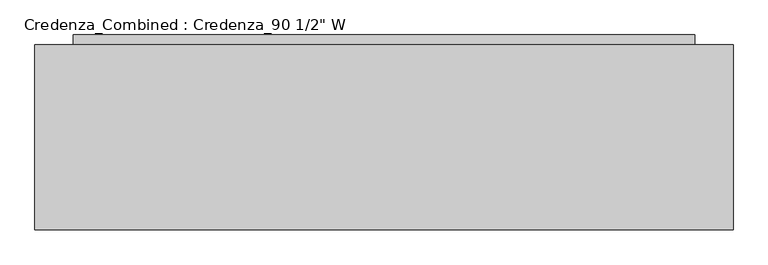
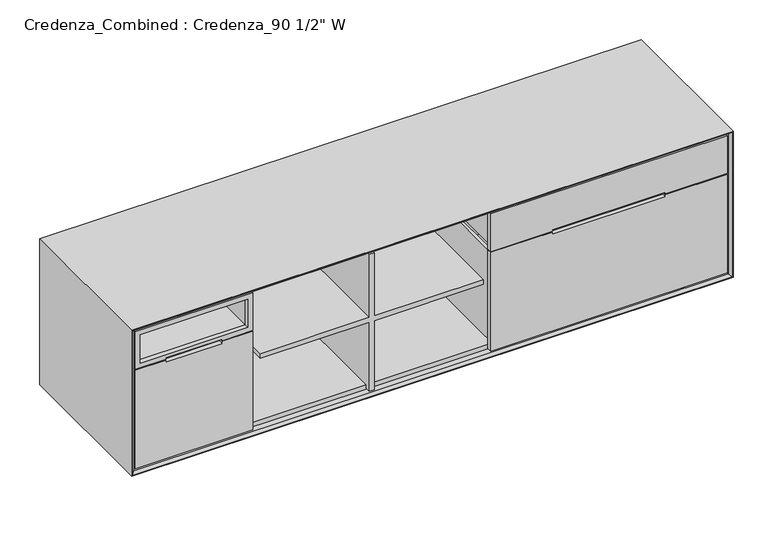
"""IFC4 building model written with IfcOpenShell, lengths in millimetres: furniture geometry."""

from ifc_helpers import new_model, si_unit, frame, origin, origin_with_axes, place, context, project, spatial, polyline, outline, extrude, faceted_brep, source, transform, mapped, element, save


def furniture_50cba423(model_context):
    return source(origin(), model_context, "Body", "SolidModel", [
        faceted_brep([(2263.775, 609.6, 478.63125), (1395.4125, 609.6, 478.63125), (1395.4125, 28.575, 478.63125), (2263.775, 28.575, 478.63125), (1408.1125, 596.9, 478.63125), (2249.4875, 596.9, 478.63125), (2249.4875, 41.275, 478.63125), (1408.1125, 41.275, 478.63125), (2263.775, 609.6, 105.56875), (1395.4125, 609.6, 105.56875), (1395.4125, 28.575, 105.56875), (2263.775, 28.575, 105.56875), (1408.1125, 596.9, 118.26875), (2249.4875, 596.9, 118.26875), (2249.4875, 41.275, 118.26875), (1408.1125, 41.275, 118.26875)], [[[0, 1, 2, 3], [4, 5, 6, 7]], [[1, 0, 8, 9]], [[2, 1, 9, 10]], [[3, 2, 10, 11]], [[8, 0, 3, 11]], [[5, 4, 12, 13]], [[6, 5, 13, 14]], [[7, 6, 14, 15]], [[4, 7, 15, 12]], [[13, 12, 15, 14]], [[8, 11, 10, 9]]]),
        faceted_brep([(2249.4875, 596.9, 519.90625), (1408.1125, 596.9, 519.90625), (1408.1125, 41.275, 519.90625), (2249.4875, 41.275, 519.90625), (2263.775, 609.6, 507.20625), (2263.775, 28.575, 507.20625), (1395.4125, 28.575, 507.20625), (1395.4125, 609.6, 507.20625), (1395.4125, 609.6, 634.20625), (2263.775, 609.6, 634.20625), (1395.4125, 28.575, 634.20625), (2263.775, 28.575, 634.20625), (1408.1125, 596.9, 634.20625), (2249.4875, 596.9, 634.20625), (2249.4875, 41.275, 634.20625), (1408.1125, 41.275, 634.20625)], [[[0, 1, 2, 3]], [[4, 5, 6, 7]], [[4, 7, 8, 9]], [[8, 7, 6, 10]], [[10, 6, 5, 11]], [[11, 5, 4, 9]], [[9, 8, 10, 11], [12, 13, 14, 15]], [[13, 12, 1, 0]], [[14, 13, 0, 3]], [[15, 14, 3, 2]], [[12, 15, 2, 1]]]),
        extrude(outline(polyline([(504.03125, 1377.95), (105.56875, 1377.95), (105.56875, 2281.2375), (504.03125, 2281.2375), (504.03125, 2045.49375), (494.7030946, 2045.49375), (494.7030946, 1613.69375), (504.03125, 1613.69375), (504.03125, 1377.95)])), frame((0.0, 9.525, 0.0), z_axis=(0.0, 1.0, 0.0), x_axis=(0.0, 0.0, 1.0)), (0.0, 0.0, 1.0), 19.05),
        extrude(outline(polyline([(659.60625, 2281.2375), (659.60625, 1377.95), (507.20625, 1377.95), (507.20625, 1613.69375), (513.3594054, 1613.69375), (513.3594054, 2045.49375), (507.20625, 2045.49375), (507.20625, 2281.2375), (659.60625, 2281.2375)])), frame((0.0, 9.525, 0.0), z_axis=(0.0, 1.0, 0.0), x_axis=(0.0, 0.0, 1.0)), (0.0, 0.0, 1.0), 19.05),
        extrude(outline(polyline([(659.60625, 932.65625), (659.60625, 913.60625), (404.01875, 913.60625), (404.01875, 496.8875), (384.96875, 496.8875), (384.96875, 913.60625), (105.56875, 913.60625), (105.56875, 932.65625), (384.96875, 932.65625), (384.96875, 1349.375), (404.01875, 1349.375), (404.01875, 932.65625), (659.60625, 932.65625)])), frame((0.0, 9.525, 0.0), z_axis=(0.0, 1.0, 0.0), x_axis=(0.0, 0.0, 1.0)), (0.0, 0.0, 1.0), 600.075),
        extrude(outline(polyline([(2171.7, 609.6), (2171.7, 241.3), (127.0, 241.3), (127.0, 609.6), (2171.7, 609.6)])), origin_with_axes(), (0.0, 0.0, 1.0), 87.3125),
        extrude(outline(polyline([(2171.7, 641.35), (2171.7, 609.6), (127.0, 609.6), (127.0, 641.35), (2171.7, 641.35)])), origin_with_axes(), (0.0, 0.0, 1.0), 647.7),
        extrude(outline(polyline([(665.1625, 2286.0), (665.1625, 12.7), (100.0125, 12.7), (100.0125, 2286.0), (665.1625, 2286.0)]), holes=[polyline([(646.1125, 31.75), (646.1125, 2266.95), (119.0625, 2266.95), (119.0625, 31.75), (646.1125, 31.75)])]), frame((0.0, 31.75, 0.0), z_axis=(0.0, 1.0, 0.0), x_axis=(0.0, 0.0, 1.0)), (0.0, 0.0, 1.0), 577.85),
        faceted_brep([(2286.0, 9.525, 665.1625), (2286.0, 609.6, 665.1625), (2286.0, 609.6, 100.0125), (2286.0, 9.525, 100.0125), (2295.525, 0.0, 674.6875), (2295.525, 0.0, 90.4875), (2298.7, 609.6, 677.8625), (2298.7, 0.0, 677.8625), (2298.7, 0.0, 87.3125), (2298.7, 609.6, 87.3125), (12.7, 609.6, 100.0125), (12.7, 9.525, 100.0125), (3.175, 0.0, 90.4875), (0.0, 0.0, 87.3125), (0.0, 609.6, 87.3125), (12.7, 609.6, 665.1625), (12.7, 9.525, 665.1625), (3.175, 0.0, 674.6875), (0.0, 0.0, 677.8625), (0.0, 609.6, 677.8625)], [[[0, 1, 2, 3]], [[4, 0, 3, 5]], [[6, 7, 8, 9]], [[3, 2, 10, 11]], [[5, 3, 11, 12]], [[9, 8, 13, 14]], [[11, 10, 15, 16]], [[12, 11, 16, 17]], [[14, 13, 18, 19]], [[9, 14, 19, 6], [1, 15, 10, 2]], [[16, 15, 1, 0]], [[17, 16, 0, 4]], [[7, 18, 13, 8], [5, 12, 17, 4]], [[19, 18, 7, 6]]]),
        extrude(outline(polyline([(450.85, 609.6), (450.85, 28.575), (36.5125, 28.575), (36.5125, 609.6), (450.85, 609.6)]), holes=[polyline([(49.2125, 596.9), (49.2125, 41.275), (436.5625, 41.275), (436.5625, 596.9), (49.2125, 596.9)])]), frame((0.0, 0.0, 118.26875), z_axis=(0.0, 0.0, 1.0), x_axis=(1.0, 0.0, 0.0)), (0.0, 0.0, 1.0), 360.3625),
        extrude(outline(polyline([(642.14375, 450.85), (642.14375, 36.5125), (524.66875, 36.5125), (524.66875, 450.85), (642.14375, 450.85)]), holes=[polyline([(640.55625, 449.2625), (526.25625, 449.2625), (526.25625, 38.1), (640.55625, 38.1), (640.55625, 449.2625)])]), frame((0.0, 28.575, 0.0), z_axis=(0.0, 1.0, 0.0), x_axis=(0.0, 0.0, 1.0)), (0.0, 0.0, 1.0), 581.025),
        extrude(outline(polyline([(504.03125, 19.05), (105.56875, 19.05), (105.56875, 468.3125), (504.03125, 468.3125), (504.03125, 351.63125), (494.7030946, 351.63125), (494.7030946, 135.73125), (504.03125, 135.73125), (504.03125, 19.05)])), frame((0.0, 9.525, 0.0), z_axis=(0.0, 1.0, 0.0), x_axis=(0.0, 0.0, 1.0)), (0.0, 0.0, 1.0), 19.05),
        extrude(outline(polyline([(659.60625, 468.3125), (659.60625, 19.05), (507.20625, 19.05), (507.20625, 135.73125), (513.3594054, 135.73125), (513.3594054, 351.63125), (507.20625, 351.63125), (507.20625, 468.3125), (659.60625, 468.3125)]), holes=[polyline([(640.55625, 38.1), (640.55625, 449.2625), (526.25625, 449.2625), (526.25625, 38.1), (640.55625, 38.1)])]), frame((0.0, 9.525, 0.0), z_axis=(0.0, 1.0, 0.0), x_axis=(0.0, 0.0, 1.0)), (0.0, 0.0, 1.0), 19.05),
    ])


if __name__ == "__main__":
    model = new_model("IFC4")
    model_context = context("Model", 3, world=origin())
    ifc_project = project(units=[si_unit("LENGTHUNIT", "METRE", prefix="MILLI")], contexts=[model_context])
    site = spatial("IfcSite", under=ifc_project)
    building = spatial("IfcBuilding", under=site)
    placement = place(None, origin())
    furniture_shape = furniture_50cba423(model_context)
    element("IfcFurniture", 1, ObjectType="Credenza_Combined : Credenza_90 1/2\" W", at=placement, inside=building, context=model_context, shape_type="MappedRepresentation", body=[
        mapped(furniture_shape, transform((0.0, 0.0, 0.0), x_axis=(1.0, 0.0, 0.0), y_axis=(0.0, 1.0, 0.0), z_axis=(0.0, 0.0, 1.0))),
    ])
    save(model, "model.ifc")
